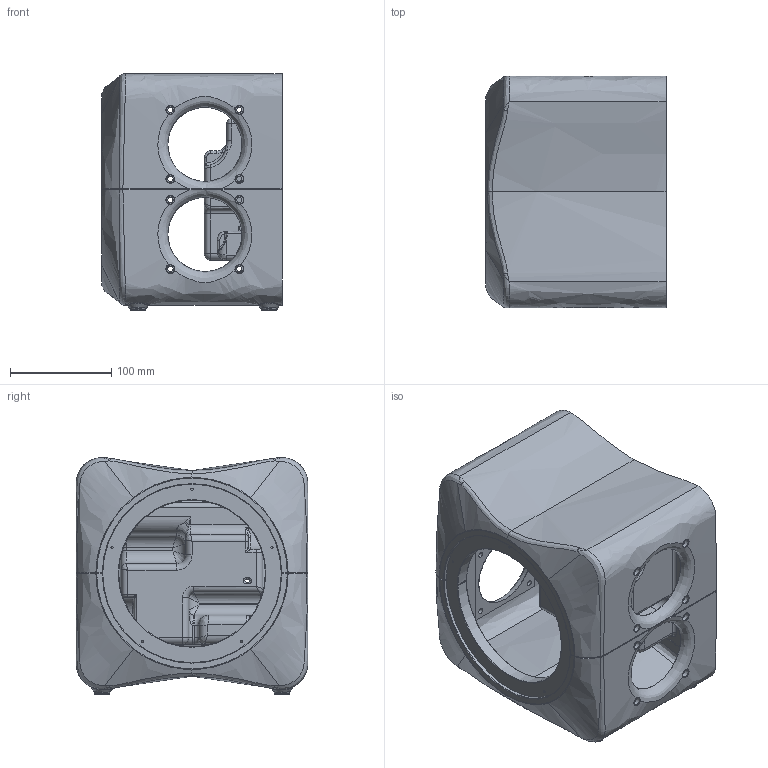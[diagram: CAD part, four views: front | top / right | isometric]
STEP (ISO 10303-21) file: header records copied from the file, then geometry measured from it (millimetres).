
FILE_DESCRIPTION(/* description */ (''),/* implementation_level */ '2;1');
FILE_NAME(/* name */ 'TB 4-Pack Enclosure- Single Piece Enclosure.step',/* time_stamp */ '2026-01-13T13:45:34-05:00',/* author */ (''),/* organization */ (''),/* preprocessor_version */ 'ST-DEVELOPER v20.1',/* originating_system */ 'Autodesk Translation Framework v14.21.0.0',/* authorisation */ '');
FILE_SCHEMA (('AUTOMOTIVE_DESIGN { 1 0 10303 214 3 1 1 }'));
Products named in the file (1): TB 4-Pack - One Piece Enclosure
Bounding box: 177.8 x 228.6 x 233.68 mm (x, y, z)
Volume: 1959693.1 mm3; surface area: 480694.8 mm2
Topology: 1 solids, 1 shells, 1264 faces, 3268 edges, 2044 vertices
Faces by surface type: bspline 657, plane 278, cylinder 241, torus 75, sphere 10, cone 3
Full cylindrical faces by diameter (mm): 2.184 x13, 3.556 x8, 5.207 x16, 8.001 x16, 73.025 x4
Entity records: 77788 total; most frequent: CARTESIAN_POINT 51727, ORIENTED_EDGE 6456, DIRECTION 3503, EDGE_CURVE 3228, VERTEX_POINT 2044, B_SPLINE_CURVE_WITH_KNOTS 1575, EDGE_LOOP 1412, FACE_OUTER_BOUND 1264
